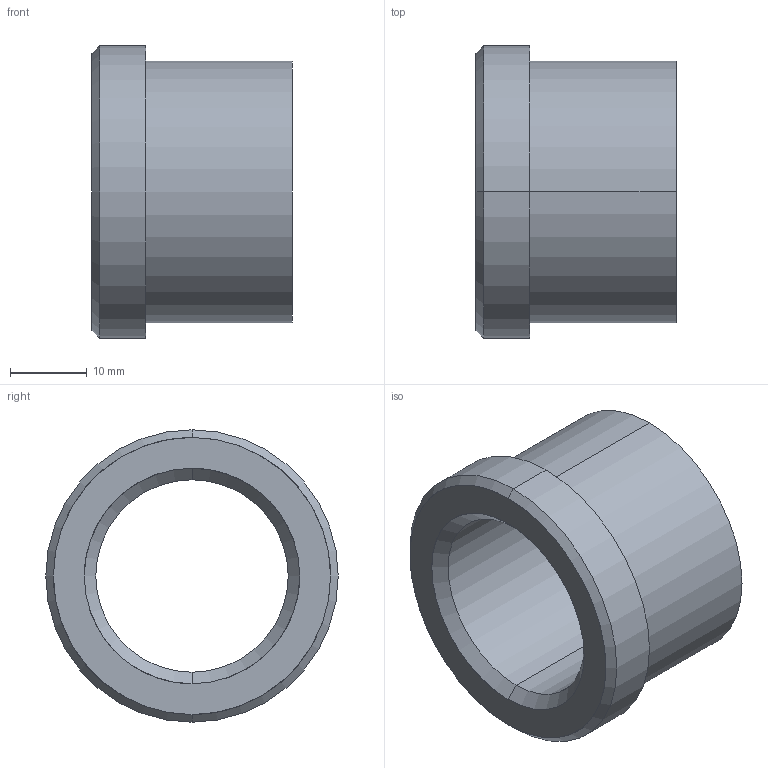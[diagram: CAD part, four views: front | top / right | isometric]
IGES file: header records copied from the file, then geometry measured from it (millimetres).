
Start section: START RECORD GO HERE.
Global section: file name: 353-25X26.igs; native system: DASSAULT SYSTEMES CATIA V5 R20 - www.3ds.com; preprocessor: CATIA Version 5 Release 20 ; author: Utente; organization: NB04-ASUS; date: 20210512.204748; units: millimetre
Bounding box: 26 x 38 x 38 mm (x, y, z)
Surface area: 5990.7 mm2 (no closed solid volume)
Topology: 0 solids, 0 shells, 15 faces, 96 edges, 96 vertices
Faces by surface type: revolution 12, plane 3
